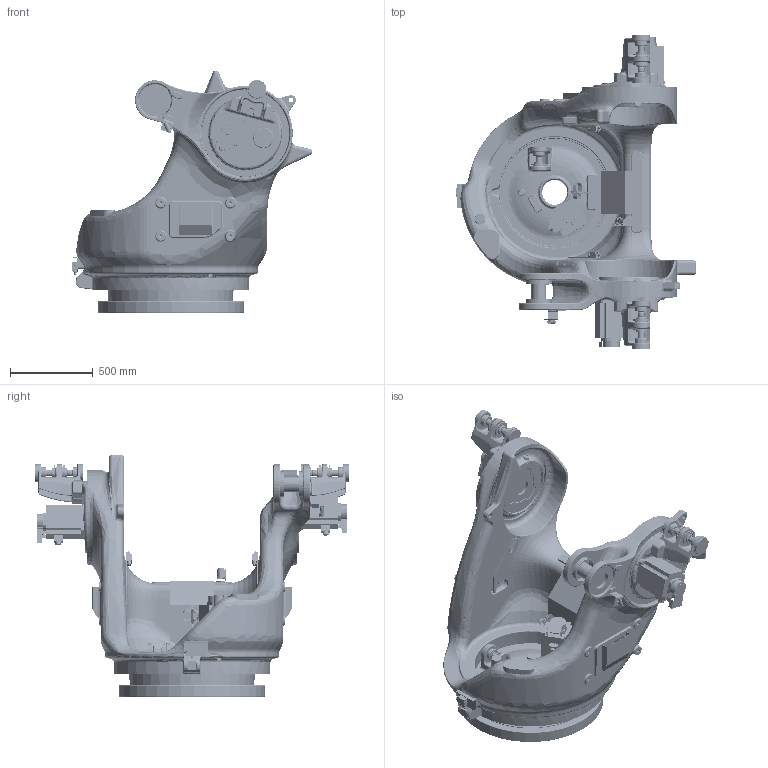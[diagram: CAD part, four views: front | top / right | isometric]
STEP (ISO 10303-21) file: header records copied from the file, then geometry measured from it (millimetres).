
FILE_DESCRIPTION(('CATIA V5 STEP Exchange','CAx-IF Rec.Pracs.--- Model Styling and Organization---1.2---2011-12-15','CAx-IF Rec.Pracs.--- Geometric and Assembly Validation Properties ---3.1---2011-10-19'),'2;1');
FILE_NAME('Z:\ROBOT\CATIA06\products\MC1000DL\Light_model\Step\020_J1_Frame_MC1000DL-02.stp','2016-12-26T04:12:15+00:00',('none'),('none'),'Version 5-6 Release 2012','CATIA V5 STEP AP214','none');
FILE_SCHEMA(('AUTOMOTIVE_DESIGN { 1 0 10303 214 1 1 1 1 }'));
Length unit declared in the file: millimetre
Products named in the file (1): 020_J1_Frame_MC1000DL-02
Bounding box: 1448.59 x 1890 x 1462.69 mm (x, y, z)
Volume: 258707351.6 mm3; surface area: 18777576.7 mm2
Topology: 72 solids, 87 shells, 6618 faces, 16564 edges, 10224 vertices
Faces by surface type: plane 2106, cylinder 1704, bspline 1605, torus 737, cone 441, sphere 18, revolution 6, extrusion 1
Entity records: 314060 total; most frequent: CARTESIAN_POINT 175952, ORIENTED_EDGE 32804, DIRECTION 18547, EDGE_CURVE 16426, VERTEX_POINT 10224, AXIS2_PLACEMENT_3D 8666, EDGE_LOOP 7013, ADVANCED_FACE 6618
